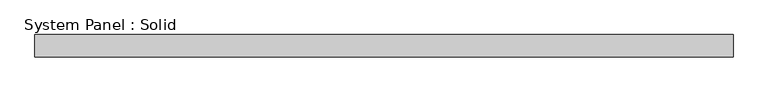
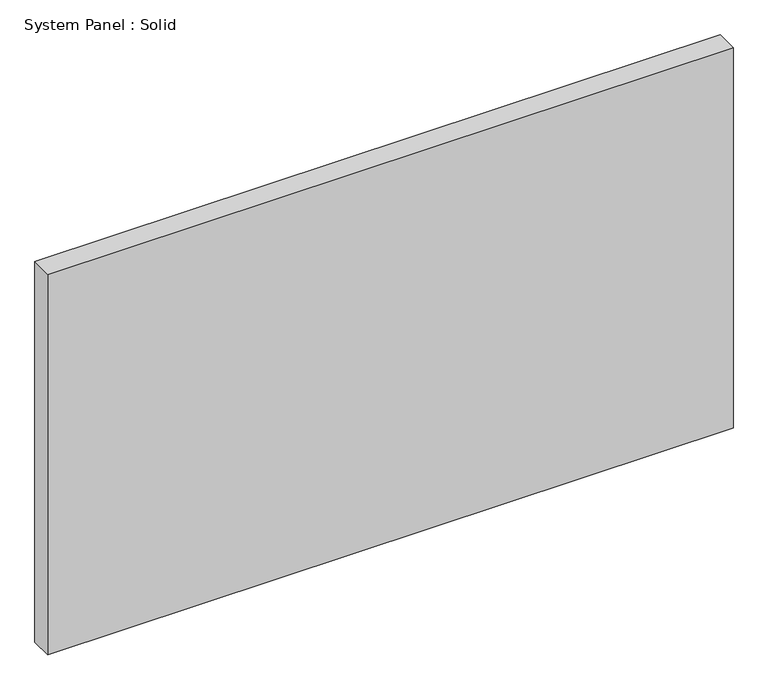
"""IFC4 building model written with IfcOpenShell, lengths in millimetres: plate geometry, System Panel : Solid."""

from ifc_helpers import new_model, si_unit, origin, origin_with_axes, place, context, project, spatial, polyline, outline, extrude, source, transform, mapped, element, save


def system_panel_solid_77e8b053(model_context):
    return source(origin(), model_context, "Body", "SweptSolid", [
        extrude(outline(polyline([(984.25, -44.45), (-984.25, -44.45), (-984.25, 19.05), (984.25, 19.05), (984.25, -44.45)])), origin_with_axes(), (0.0, 0.0, 1.0), 1155.7),
    ])


if __name__ == "__main__":
    model = new_model("IFC4")
    model_context = context("Model", 3, world=origin())
    ifc_project = project(units=[si_unit("LENGTHUNIT", "METRE", prefix="MILLI")], contexts=[model_context])
    site = spatial("IfcSite", under=ifc_project)
    building = spatial("IfcBuilding", under=site)
    placement = place(None, origin())
    system_panel_solid_shape = system_panel_solid_77e8b053(model_context)
    element("IfcPlate", 1, ObjectType="System Panel : Solid", at=placement, inside=building, context=model_context, shape_type="MappedRepresentation", body=[
        mapped(system_panel_solid_shape, transform((0.0, 0.0, 0.0), x_axis=(1.0, 0.0, 0.0), y_axis=(0.0, 1.0, 0.0), z_axis=(0.0, 0.0, 1.0))),
    ])
    save(model, "model.ifc")
